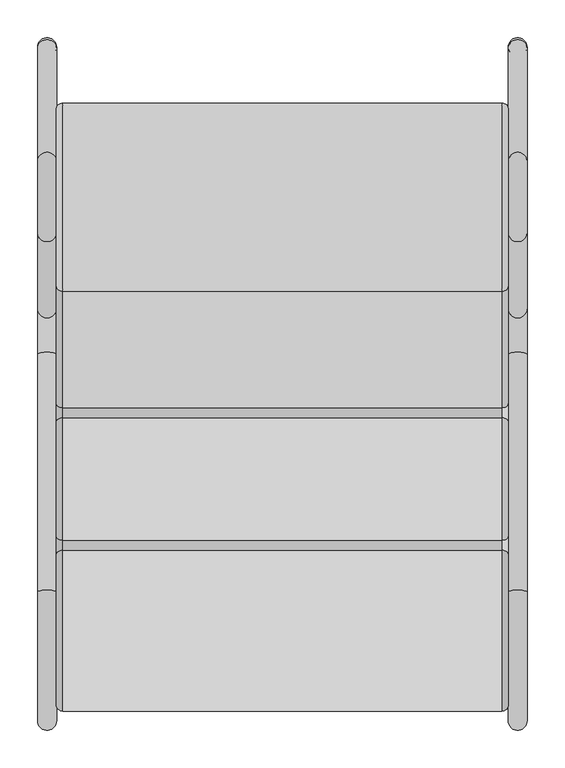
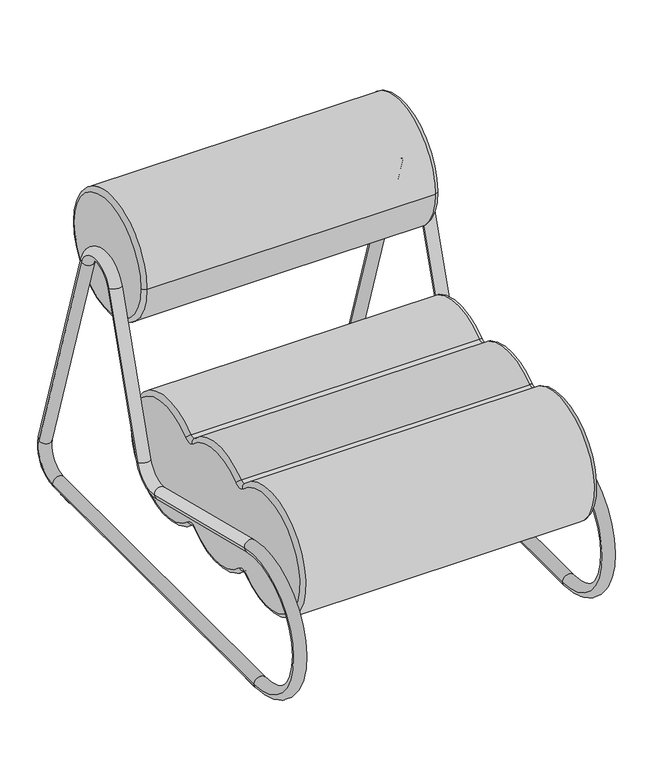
"""IFC4 building model written with IfcOpenShell, lengths in millimetres: furniture geometry, Norr11 - Fave Chair : Norr11 - Fave Chair."""

from ifc_helpers import new_model, si_unit, point, frame, frame_2d, origin, origin_with_axes, place, context, project, spatial, polyline, circle_curve, ellipse_curve, trimmed, segment, composite_curve, outline, extrude, source, transform, mapped, element, save
from ifc_brep_helpers import plane_surface, cylinder_surface, revolved_surface, advanced_brep


def furniture_424a3cbe(model_context):
    return source(origin(), model_context, "Body", "SolidModel", [
        advanced_brep(
        [(300.0, -99.0371066, 187.3023244), (300.0, -74.6397085, 186.1936304), (300.0, -66.5278768, 361.1205127), (300.0, -90.9152745, 362.2668383), (300.0, -242.5593695, 370.8688119), (300.0, -266.9214094, 372.4891571), (300.0, -278.6462906, 197.7786323), (300.0, -254.27705, 196.1200085), (-300.0, -74.6397085, 186.1936304), (-300.0, -99.0371066, 187.3023244), (-300.0, -254.27705, 196.1200085), (-300.0, -278.6462906, 197.7786323), (-300.0, -266.9214094, 372.4891571), (-300.0, -242.5593695, 370.8688119), (-300.0, -90.9152745, 362.2668383), (-300.0, -66.5278768, 361.1205127), (-291.5, -80.5343822, 180.0696756), (-291.5, -71.8305029, 367.7637165), (291.5, -71.8305029, 367.7637165), (291.5, -80.5343822, 180.0696756), (-291.5, -85.01288, 368.383352), (291.5, -85.01288, 368.383352), (-291.5, -247.7322118, 377.6135656), (291.5, -247.7322118, 377.6135656), (-291.5, -260.900882, 378.4894279), (291.5, -260.900882, 378.4894279), (-291.5, -273.4814999, 191.0277111), (291.5, -273.4814999, 191.0277111), (-291.5, -260.3089374, 190.1311577), (291.5, -260.3089374, 190.1311577), (-291.5, -93.7221649, 180.6689697), (291.5, -93.7221649, 180.6689697)],
        [
            (0, 1, circle_curve(frame((300.0, -87.4692924, 172.8650229), z_axis=(-1.0, 0.0, 0.0), x_axis=(0.0, 0.6934910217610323, 0.7204652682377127)), 18.5)),
            (1, 2, circle_curve(frame((300.0, 6.1250822, 270.099874), z_axis=(1.0, 0.0, 0.0), x_axis=(0.0, -0.6238383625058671, 0.7815533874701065)), 116.4611915)),
            (2, 3, circle_curve(frame((300.0, -78.0688865, 375.5792504), z_axis=(-1.0, 0.0, 0.0), x_axis=(0.0, -0.6943993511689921, -0.7195898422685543)), 18.5)),
            (3, 4, circle_curve(frame((300.0, -171.7319007, 278.5184546), z_axis=(1.0, 0.0, 0.0), x_axis=(0.0, -0.6085696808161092, 0.7935004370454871)), 116.383499)),
            (4, 5, circle_curve(frame((300.0, -253.8179086, 385.54857), z_axis=(-1.0, 0.0, 0.0), x_axis=(0.0, -0.7082973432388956, -0.7059142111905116)), 18.5)),
            (5, 6, circle_curve(frame((300.0, -349.4116978, 290.2764149), z_axis=(1.0, 0.0, 0.0), x_axis=(0.0, 0.6076224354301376, -0.7942260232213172)), 116.4627952)),
            (6, 7, circle_curve(frame((300.0, -267.4052756, 183.0854509), z_axis=(-1.0, 0.0, 0.0), x_axis=(0.0, 0.7096338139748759, 0.7045706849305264)), 18.5)),
            (7, 0, circle_curve(frame((300.0, -171.7526851, 278.0555746), z_axis=(1.0, 0.0, 0.0), x_axis=(0.0, 0.6252872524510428, -0.7803946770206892)), 116.2914777)),
            (8, 9, circle_curve(frame((-300.0, -87.4692924, 172.8650229), z_axis=(1.0, 0.0, 0.0), x_axis=(0.0, 0.6934910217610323, 0.7204652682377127)), 18.5)),
            (9, 10, circle_curve(frame((-300.0, -171.7526851, 278.0555746), z_axis=(-1.0, 0.0, 0.0), x_axis=(0.0, 0.6252872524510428, -0.7803946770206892)), 116.2914777)),
            (10, 11, circle_curve(frame((-300.0, -267.4052756, 183.0854509), z_axis=(1.0, 0.0, 0.0), x_axis=(0.0, 0.7096338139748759, 0.7045706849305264)), 18.5)),
            (11, 12, circle_curve(frame((-300.0, -349.4116978, 290.2764149), z_axis=(-1.0, 0.0, 0.0), x_axis=(0.0, 0.6076224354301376, -0.7942260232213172)), 116.4627952)),
            (12, 13, circle_curve(frame((-300.0, -253.8179086, 385.54857), z_axis=(1.0, 0.0, 0.0), x_axis=(0.0, -0.7082973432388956, -0.7059142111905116)), 18.5)),
            (13, 14, circle_curve(frame((-300.0, -171.7319007, 278.5184546), z_axis=(-1.0, 0.0, 0.0), x_axis=(0.0, -0.6085696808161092, 0.7935004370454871)), 116.383499)),
            (14, 15, circle_curve(frame((-300.0, -78.0688865, 375.5792504), z_axis=(1.0, 0.0, 0.0), x_axis=(0.0, -0.6943993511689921, -0.7195898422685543)), 18.5)),
            (15, 8, circle_curve(frame((-300.0, 6.1250822, 270.099874), z_axis=(-1.0, 0.0, 0.0), x_axis=(0.0, -0.6238383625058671, 0.7815533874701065)), 116.4611915)),
            (16, 17, circle_curve(frame((-291.5, 6.1250822, 270.099874), z_axis=(1.0, 0.0, 0.0), x_axis=(0.0, -1.0, 0.0)), 124.9611915)),
            (17, 18),
            (18, 19, circle_curve(frame((291.5, 6.1250822, 270.099874), z_axis=(-1.0, 0.0, 0.0), x_axis=(0.0, -1.0, 0.0)), 124.9611915)),
            (19, 16),
            (17, 20, circle_curve(frame((-291.5, -78.0688865, 375.5792504), z_axis=(-1.0, 0.0, 0.0), x_axis=(0.0, -1.0, 0.0)), 10.0)),
            (20, 21),
            (21, 18, circle_curve(frame((291.5, -78.0688865, 375.5792504), z_axis=(1.0, 0.0, 0.0), x_axis=(0.0, -1.0, 0.0)), 10.0)),
            (20, 22, circle_curve(frame((-291.5, -171.7319007, 278.5184546), z_axis=(1.0, 0.0, 0.0), x_axis=(0.0, -1.0, 0.0)), 124.883499)),
            (22, 23),
            (23, 21, circle_curve(frame((291.5, -171.7319007, 278.5184546), z_axis=(-1.0, 0.0, 0.0), x_axis=(0.0, -1.0, 0.0)), 124.883499)),
            (22, 24, circle_curve(frame((-291.5, -253.8179086, 385.54857), z_axis=(-1.0, 0.0, 0.0), x_axis=(0.0, -1.0, 0.0)), 10.0)),
            (24, 25),
            (25, 23, circle_curve(frame((291.5, -253.8179086, 385.54857), z_axis=(1.0, 0.0, 0.0), x_axis=(0.0, -1.0, 0.0)), 10.0)),
            (24, 26, circle_curve(frame((-291.5, -349.4116978, 290.2764149), z_axis=(1.0, 0.0, 0.0), x_axis=(0.0, -1.0, 0.0)), 124.9627952)),
            (26, 27),
            (27, 25, circle_curve(frame((291.5, -349.4116978, 290.2764149), z_axis=(-1.0, 0.0, 0.0), x_axis=(0.0, -1.0, 0.0)), 124.9627952)),
            (26, 28, circle_curve(frame((-291.5, -267.4052756, 183.0854509), z_axis=(-1.0, 0.0, 0.0), x_axis=(0.0, -1.0, 0.0)), 10.0)),
            (28, 29),
            (29, 27, circle_curve(frame((291.5, -267.4052756, 183.0854509), z_axis=(1.0, 0.0, 0.0), x_axis=(0.0, -1.0, 0.0)), 10.0)),
            (28, 30, circle_curve(frame((-291.5, -171.7526851, 278.0555746), z_axis=(1.0, 0.0, 0.0), x_axis=(0.0, -1.0, 0.0)), 124.7914777)),
            (30, 31),
            (31, 29, circle_curve(frame((291.5, -171.7526851, 278.0555746), z_axis=(-1.0, 0.0, 0.0), x_axis=(0.0, -1.0, 0.0)), 124.7914777)),
            (30, 16, circle_curve(frame((-291.5, -87.4692924, 172.8650229), z_axis=(-1.0, 0.0, 0.0), x_axis=(0.0, -1.0, 0.0)), 10.0)),
            (19, 31, circle_curve(frame((291.5, -87.4692924, 172.8650229), z_axis=(1.0, 0.0, 0.0), x_axis=(0.0, -1.0, 0.0)), 10.0)),
            (30, 9, circle_curve(frame((-291.5, -99.0371066, 187.3023244), z_axis=(0.0, 0.7803946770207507, 0.6252872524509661), x_axis=(1.0, 0.0, 0.0)), 8.5)),
            (8, 16, circle_curve(frame((-291.5, -74.6397085, 186.1936304), z_axis=(0.0, -0.7204652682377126, 0.6934910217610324), x_axis=(1.0, 0.0, 0.0)), 8.5)),
            (28, 10, circle_curve(frame((-291.5, -254.27705, 196.1200085), z_axis=(0.0, 0.7045706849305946, -0.7096338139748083), x_axis=(1.0, 0.0, 0.0)), 8.5)),
            (26, 11, circle_curve(frame((-291.5, -278.6462906, 197.7786323), z_axis=(0.0, 0.7942260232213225, 0.6076224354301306), x_axis=(1.0, 0.0, 0.0)), 8.5)),
            (24, 12, circle_curve(frame((-291.5, -266.9214094, 372.4891571), z_axis=(0.0, -0.7059142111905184, 0.7082973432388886), x_axis=(1.0, 0.0, 0.0)), 8.5)),
            (22, 13, circle_curve(frame((-291.5, -242.5593695, 370.8688119), z_axis=(0.0, -0.7935004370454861, -0.6085696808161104), x_axis=(1.0, 0.0, 0.0)), 8.5)),
            (20, 14, circle_curve(frame((-291.5, -90.9152745, 362.2668383), z_axis=(0.0, -0.7195898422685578, 0.6943993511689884), x_axis=(1.0, 0.0, 0.0)), 8.5)),
            (17, 15, circle_curve(frame((-291.5, -66.5278768, 361.1205127), z_axis=(0.0, -0.7815533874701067, -0.6238383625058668), x_axis=(1.0, 0.0, 0.0)), 8.5)),
            (0, 31, circle_curve(frame((291.5, -99.0371066, 187.3023244), z_axis=(0.0, 0.7803946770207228, 0.6252872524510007), x_axis=(-1.0, 0.0, 0.0)), 8.5)),
            (19, 1, circle_curve(frame((291.5, -74.6397085, 186.1936304), z_axis=(0.0, -0.7204652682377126, 0.6934910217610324), x_axis=(-1.0, 0.0, 0.0)), 8.5)),
            (7, 29, circle_curve(frame((291.5, -254.27705, 196.1200085), z_axis=(0.0, 0.7045706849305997, -0.7096338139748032), x_axis=(-1.0, 0.0, 0.0)), 8.5)),
            (6, 27, circle_curve(frame((291.5, -278.6462906, 197.7786323), z_axis=(0.0, 0.7942260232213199, 0.6076224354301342), x_axis=(-1.0, 0.0, 0.0)), 8.5)),
            (5, 25, circle_curve(frame((291.5, -266.9214094, 372.4891571), z_axis=(0.0, -0.7059142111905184, 0.7082973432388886), x_axis=(-1.0, 0.0, 0.0)), 8.5)),
            (4, 23, circle_curve(frame((291.5, -242.5593695, 370.8688119), z_axis=(0.0, -0.7935004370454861, -0.6085696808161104), x_axis=(-1.0, 0.0, 0.0)), 8.5)),
            (3, 21, circle_curve(frame((291.5, -90.9152745, 362.2668383), z_axis=(0.0, -0.7195898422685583, 0.694399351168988), x_axis=(-1.0, 0.0, 0.0)), 8.5)),
            (2, 18, circle_curve(frame((291.5, -66.5278768, 361.1205127), z_axis=(0.0, -0.7815533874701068, -0.6238383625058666), x_axis=(-1.0, 0.0, 0.0)), 8.5)),
        ],
        [
            plane_surface(frame((300.0, -118.8361093, 270.099874), z_axis=(1.0, 0.0, 0.0), x_axis=(0.0, 0.0, -1.0))),
            plane_surface(frame((-300.0, -118.8361093, 270.099874), z_axis=(-1.0, 0.0, 0.0), x_axis=(0.0, 0.0, 1.0))),
            cylinder_surface(frame((-300.0, 6.1250822, 270.099874), z_axis=(1.0, 0.0, 0.0), x_axis=(0.0, -1.0, 0.0)), 124.9611915),
            revolved_surface(polyline([(-291.5, -88.0688865, 375.5792504), (291.5, -88.0688865, 375.5792504)]), (-300.0, -78.0688865, 375.5792504), (-1.0, 0.0, 0.0)),
            cylinder_surface(frame((-300.0, -171.7319007, 278.5184546), z_axis=(1.0, 0.0, 0.0), x_axis=(0.0, -1.0, 0.0)), 124.883499),
            revolved_surface(polyline([(-291.5, -263.8179086, 385.54857), (291.5, -263.8179086, 385.54857)]), (-300.0, -253.8179086, 385.54857), (-1.0, 0.0, 0.0)),
            cylinder_surface(frame((-300.0, -349.4116978, 290.2764149), z_axis=(1.0, 0.0, 0.0), x_axis=(0.0, -1.0, 0.0)), 124.9627952),
            revolved_surface(polyline([(-291.5, -277.4052756, 183.0854509), (291.5, -277.4052756, 183.0854509)]), (-300.0, -267.4052756, 183.0854509), (-1.0, 0.0, 0.0)),
            cylinder_surface(frame((-300.0, -171.7526851, 278.0555746), z_axis=(1.0, 0.0, 0.0), x_axis=(0.0, -1.0, 0.0)), 124.7914777),
            revolved_surface(polyline([(-291.5, -97.4692924, 172.8650229), (291.5, -97.4692924, 172.8650229)]), (-300.0, -87.4692924, 172.8650229), (-1.0, 0.0, 0.0)),
            revolved_surface(trimmed(ellipse_curve(frame((-291.5, -74.6397085, 186.1936304), z_axis=(0.0, 0.7204652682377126, -0.6934910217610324), x_axis=(1.0, 0.0, 0.0)), 8.5, 8.5), [point((-291.5, -80.5343822, 180.0696756))], [point((-300.0, -74.6397085, 186.1936304))], True, "CARTESIAN"), (0.0, -87.4692924, 172.8650229), (1.0, 0.0, 0.0)),
            revolved_surface(trimmed(ellipse_curve(frame((-291.5, -99.0371066, 187.3023244), z_axis=(0.0, 0.7803946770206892, 0.6252872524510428), x_axis=(1.0, 0.0, 0.0)), 8.5, 8.5), [point((-291.5, -93.7221649, 180.6689697))], [point((-300.0, -99.0371066, 187.3023244))], True, "CARTESIAN"), (0.0, -171.7526851, 278.0555746), (-1.0, 0.0, 0.0)),
            revolved_surface(trimmed(ellipse_curve(frame((-291.5, -254.27705, 196.1200085), z_axis=(0.0, 0.7045706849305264, -0.7096338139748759), x_axis=(1.0, 0.0, 0.0)), 8.5, 8.5), [point((-291.5, -260.3089374, 190.1311577))], [point((-300.0, -254.27705, 196.1200085))], True, "CARTESIAN"), (0.0, -267.4052756, 183.0854509), (1.0, 0.0, 0.0)),
            revolved_surface(trimmed(ellipse_curve(frame((-291.5, -278.6462906, 197.7786323), z_axis=(0.0, 0.7942260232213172, 0.6076224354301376), x_axis=(1.0, 0.0, 0.0)), 8.5, 8.5), [point((-291.5, -273.4814999, 191.0277111))], [point((-300.0, -278.6462906, 197.7786323))], True, "CARTESIAN"), (0.0, -349.4116978, 290.2764149), (-1.0, 0.0, 0.0)),
            revolved_surface(trimmed(ellipse_curve(frame((-291.5, -266.9214094, 372.4891571), z_axis=(0.0, -0.7059142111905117, 0.7082973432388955), x_axis=(1.0, 0.0, 0.0)), 8.5, 8.5), [point((-291.5, -260.900882, 378.4894279))], [point((-300.0, -266.9214094, 372.4891571))], True, "CARTESIAN"), (0.0, -253.8179086, 385.54857), (1.0, 0.0, 0.0)),
            revolved_surface(trimmed(ellipse_curve(frame((-291.5, -242.5593695, 370.8688119), z_axis=(0.0, -0.793500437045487, -0.6085696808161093), x_axis=(1.0, 0.0, 0.0)), 8.5, 8.5), [point((-291.5, -247.7322118, 377.6135656))], [point((-300.0, -242.5593695, 370.8688119))], True, "CARTESIAN"), (0.0, -171.7319007, 278.5184546), (-1.0, 0.0, 0.0)),
            revolved_surface(trimmed(ellipse_curve(frame((-291.5, -90.9152745, 362.2668383), z_axis=(0.0, -0.7195898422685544, 0.694399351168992), x_axis=(1.0, 0.0, 0.0)), 8.5, 8.5), [point((-291.5, -85.01288, 368.383352))], [point((-300.0, -90.9152745, 362.2668383))], True, "CARTESIAN"), (0.0, -78.0688865, 375.5792504), (1.0, 0.0, 0.0)),
            revolved_surface(trimmed(ellipse_curve(frame((-291.5, -66.5278768, 361.1205127), z_axis=(0.0, -0.7815533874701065, -0.6238383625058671), x_axis=(1.0, 0.0, 0.0)), 8.5, 8.5), [point((-291.5, -71.8305029, 367.7637165))], [point((-300.0, -66.5278768, 361.1205127))], True, "CARTESIAN"), (0.0, 6.1250822, 270.099874), (-1.0, 0.0, 0.0)),
            revolved_surface(trimmed(ellipse_curve(frame((291.5, -74.6397085, 186.1936304), z_axis=(0.0, 0.7204652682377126, -0.6934910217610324), x_axis=(-1.0, 0.0, 0.0)), 8.5, 8.5), [point((300.0, -74.6397085, 186.1936304))], [point((291.5, -80.5343822, 180.0696756))], True, "CARTESIAN"), (0.0, -87.4692924, 172.8650229), (1.0, 0.0, 0.0)),
            revolved_surface(trimmed(ellipse_curve(frame((291.5, -99.0371066, 187.3023244), z_axis=(0.0, 0.7803946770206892, 0.6252872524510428), x_axis=(-1.0, 0.0, 0.0)), 8.5, 8.5), [point((300.0, -99.0371066, 187.3023244))], [point((291.5, -93.7221649, 180.6689697))], True, "CARTESIAN"), (0.0, -171.7526851, 278.0555746), (-1.0, 0.0, 0.0)),
            revolved_surface(trimmed(ellipse_curve(frame((291.5, -254.27705, 196.1200085), z_axis=(0.0, 0.7045706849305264, -0.7096338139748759), x_axis=(-1.0, 0.0, 0.0)), 8.5, 8.5), [point((300.0, -254.27705, 196.1200085))], [point((291.5, -260.3089374, 190.1311577))], True, "CARTESIAN"), (0.0, -267.4052756, 183.0854509), (1.0, 0.0, 0.0)),
            revolved_surface(trimmed(ellipse_curve(frame((291.5, -278.6462906, 197.7786323), z_axis=(0.0, 0.7942260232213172, 0.6076224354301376), x_axis=(-1.0, 0.0, 0.0)), 8.5, 8.5), [point((300.0, -278.6462906, 197.7786323))], [point((291.5, -273.4814999, 191.0277111))], True, "CARTESIAN"), (0.0, -349.4116978, 290.2764149), (-1.0, 0.0, 0.0)),
            revolved_surface(trimmed(ellipse_curve(frame((291.5, -266.9214094, 372.4891571), z_axis=(0.0, -0.7059142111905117, 0.7082973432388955), x_axis=(-1.0, 0.0, 0.0)), 8.5, 8.5), [point((300.0, -266.9214094, 372.4891571))], [point((291.5, -260.900882, 378.4894279))], True, "CARTESIAN"), (0.0, -253.8179086, 385.54857), (1.0, 0.0, 0.0)),
            revolved_surface(trimmed(ellipse_curve(frame((291.5, -242.5593695, 370.8688119), z_axis=(0.0, -0.793500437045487, -0.6085696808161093), x_axis=(-1.0, 0.0, 0.0)), 8.5, 8.5), [point((300.0, -242.5593695, 370.8688119))], [point((291.5, -247.7322118, 377.6135656))], True, "CARTESIAN"), (0.0, -171.7319007, 278.5184546), (-1.0, 0.0, 0.0)),
            revolved_surface(trimmed(ellipse_curve(frame((291.5, -90.9152745, 362.2668383), z_axis=(0.0, -0.7195898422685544, 0.694399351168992), x_axis=(-1.0, 0.0, 0.0)), 8.5, 8.5), [point((300.0, -90.9152745, 362.2668383))], [point((291.5, -85.01288, 368.383352))], True, "CARTESIAN"), (0.0, -78.0688865, 375.5792504), (1.0, 0.0, 0.0)),
            revolved_surface(trimmed(ellipse_curve(frame((291.5, -66.5278768, 361.1205127), z_axis=(0.0, -0.7815533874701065, -0.6238383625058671), x_axis=(-1.0, 0.0, 0.0)), 8.5, 8.5), [point((300.0, -66.5278768, 361.1205127))], [point((291.5, -71.8305029, 367.7637165))], True, "CARTESIAN"), (0.0, 6.1250822, 270.099874), (-1.0, 0.0, 0.0)),
        ],
        [
            (0, [[1, 2, 3, 4, 5, 6, 7, 8]]),
            (1, [[9, 10, 11, 12, 13, 14, 15, 16]]),
            (2, [[17, 18, 19, 20]]),
            (3, [[21, 22, 23, -18]]),
            (4, [[24, 25, 26, -22]]),
            (5, [[27, 28, 29, -25]]),
            (6, [[30, 31, 32, -28]]),
            (7, [[33, 34, 35, -31]]),
            (8, [[36, 37, 38, -34]]),
            (9, [[39, -20, 40, -37]]),
            (10, [[41, -9, 42, -39]]),
            (11, [[-41, -36, 43, -10]]),
            (12, [[-43, -33, 44, -11]]),
            (13, [[-44, -30, 45, -12]]),
            (14, [[-45, -27, 46, -13]]),
            (15, [[-46, -24, 47, -14]]),
            (16, [[-47, -21, 48, -15]]),
            (17, [[-42, -16, -48, -17]]),
            (18, [[49, -40, 50, -1]]),
            (19, [[-49, -8, 51, -38]]),
            (20, [[-51, -7, 52, -35]]),
            (21, [[-52, -6, 53, -32]]),
            (22, [[-53, -5, 54, -29]]),
            (23, [[-54, -4, 55, -26]]),
            (24, [[-55, -3, 56, -23]]),
            (25, [[-50, -19, -56, -2]]),
        ],
    ),
        advanced_brep(
        [(300.0, 91.3471665, 584.8030049), (300.0, 324.3081823, 584.8030049), (-300.0, 324.3081823, 584.8030049), (-300.0, 91.3471665, 584.8030049), (-291.4805079, 332.8276744, 584.8030049), (-291.4805079, 82.8276744, 584.8030049), (291.4805111, 82.8276744, 584.8030049), (291.4805079, 332.8276744, 584.8030049)],
        [
            (0, 1, circle_curve(frame((300.0, 207.8276744, 584.8030049), z_axis=(1.0, 0.0, 0.0), x_axis=(0.0, -1.0, 0.0)), 116.4805079)),
            (1, 0, circle_curve(frame((300.0, 207.8276744, 584.8030049), z_axis=(1.0, 0.0, 0.0), x_axis=(0.0, 1.0, 0.0)), 116.4805079)),
            (2, 3, circle_curve(frame((-300.0, 207.8276744, 584.8030049), z_axis=(-1.0, 0.0, 0.0), x_axis=(0.0, -1.0, 0.0)), 116.4805079)),
            (3, 2, circle_curve(frame((-300.0, 207.8276744, 584.8030049), z_axis=(-1.0, 0.0, 0.0), x_axis=(0.0, 1.0, 0.0)), 116.4805079)),
            (4, 5, circle_curve(frame((-291.4805079, 207.8276744, 584.8030049), z_axis=(1.0, 0.0, 0.0), x_axis=(0.0, -1.0, 0.0)), 125.0)),
            (5, 6),
            (6, 7, circle_curve(frame((291.4805079, 207.8276744, 584.8030049), z_axis=(-1.0, 0.0, 0.0), x_axis=(0.0, -1.0, 0.0)), 125.0)),
            (7, 4),
            (5, 4, circle_curve(frame((-291.4805079, 207.8276744, 584.8030049), z_axis=(1.0, 0.0, 0.0), x_axis=(0.0, -1.0, 0.0)), 125.0)),
            (7, 6, circle_curve(frame((291.4805079, 207.8276744, 584.8030049), z_axis=(-1.0, 0.0, 0.0), x_axis=(0.0, -1.0, 0.0)), 125.0)),
            (2, 4, circle_curve(frame((-291.4805079, 324.3081823, 584.8030049), z_axis=(0.0, 0.0, -1.0), x_axis=(1.0, 0.0, 0.0)), 8.5194921)),
            (5, 3, circle_curve(frame((-291.4805079, 91.3471665, 584.8030049), z_axis=(0.0, 0.0, -1.0), x_axis=(1.0, 0.0, 0.0)), 8.5194921)),
            (7, 1, circle_curve(frame((291.4805079, 324.3081823, 584.8030049), z_axis=(0.0, 0.0, -1.0), x_axis=(-1.0, 0.0, 0.0)), 8.5194921)),
            (0, 6, circle_curve(frame((291.4805079, 91.3471665, 584.8030049), z_axis=(0.0, 0.0, -1.0), x_axis=(-1.0, 0.0, 0.0)), 8.5194921)),
        ],
        [
            plane_surface(frame((300.0, 82.8276744, 584.8030049), z_axis=(1.0, 0.0, 0.0), x_axis=(0.0, 0.0, -1.0))),
            plane_surface(frame((-300.0, 82.8276744, 584.8030049), z_axis=(-1.0, 0.0, 0.0), x_axis=(0.0, 0.0, 1.0))),
            cylinder_surface(frame((-300.0, 207.8276744, 584.8030049), z_axis=(1.0, 0.0, 0.0), x_axis=(0.0, -1.0, 0.0)), 125.0),
            revolved_surface(trimmed(ellipse_curve(frame((-291.4805079, 91.3471665, 584.8030049), z_axis=(0.0, 0.0, 1.0), x_axis=(1.0, 0.0, 0.0)), 8.5194921, 8.5194921), [point((-300.0, 91.3471665, 584.8030049))], [point((-291.4805079, 82.8276744, 584.8030049))], True, "CARTESIAN"), (0.0, 207.8276744, 584.8030049), (1.0, 0.0, 0.0)),
            revolved_surface(trimmed(ellipse_curve(frame((-291.4805079, 324.3081823, 584.8030049), z_axis=(0.0, 0.0, -1.0), x_axis=(1.0, 0.0, 0.0)), 8.5194921, 8.5194921), [point((-300.0, 324.3081823, 584.8030049))], [point((-291.4805079, 332.8276744, 584.8030049))], True, "CARTESIAN"), (0.0, 207.8276744, 584.8030049), (1.0, 0.0, 0.0)),
            revolved_surface(trimmed(ellipse_curve(frame((291.4805079, 91.3471665, 584.8030049), z_axis=(0.0, 0.0, 1.0), x_axis=(-1.0, 0.0, 0.0)), 8.5194921, 8.5194921), [point((291.4805079, 82.8276744, 584.8030049))], [point((300.0, 91.3471665, 584.8030049))], True, "CARTESIAN"), (0.0, 207.8276744, 584.8030049), (1.0, 0.0, 0.0)),
            revolved_surface(trimmed(ellipse_curve(frame((291.4805079, 324.3081823, 584.8030049), z_axis=(0.0, 0.0, -1.0), x_axis=(-1.0, 0.0, 0.0)), 8.5194921, 8.5194921), [point((291.4805079, 332.8276744, 584.8030049))], [point((300.0, 324.3081823, 584.8030049))], True, "CARTESIAN"), (0.0, 207.8276744, 584.8030049), (1.0, 0.0, 0.0)),
        ],
        [
            (0, [[1, 2]]),
            (1, [[3, 4]]),
            (2, [[5, 6, 7, 8]]),
            (2, [[9, -8, 10, -6]]),
            (3, [[11, -9, 12, -3]]),
            (4, [[-11, -4, -12, -5]]),
            (5, [[13, -1, 14, -10]]),
            (6, [[-13, -7, -14, -2]]),
        ],
    ),
        extrude(outline(composite_curve([segment(trimmed(circle_curve(frame_2d((312.9136531, 310.7190841)), 6.0000092), [point((318.9136623, 310.7190841))], [point((306.9136438, 310.7190841))], False, "CARTESIAN"), True, "CONTINUOUS"), segment(polyline([(306.9136438, 310.7190841), (306.9136438, 337.731551)]), True, "CONTINUOUS"), segment(trimmed(circle_curve(frame_2d((312.9136531, 337.731551)), 6.0000092), [point((306.9136438, 337.731551))], [point((318.9136623, 337.731551))], False, "CARTESIAN"), True, "CONTINUOUS"), segment(polyline([(318.9136623, 337.731551), (318.9136623, 310.7190841)]), True, "CONTINUOUS")], self_intersect=False)), origin_with_axes(), (0.0, 0.0, 1.0), 3.9643757),
        extrude(outline(composite_curve([segment(trimmed(circle_curve(frame_2d((312.9136531, -337.7499273)), 6.0000092), [point((318.9136623, -337.7499273))], [point((306.9136438, -337.7499273))], False, "CARTESIAN"), True, "CONTINUOUS"), segment(polyline([(306.9136438, -337.7499273), (306.9136438, -310.7374605)]), True, "CONTINUOUS"), segment(trimmed(circle_curve(frame_2d((312.9136531, -310.7374605)), 6.0000092), [point((306.9136438, -310.7374605))], [point((318.9136623, -310.7374605))], False, "CARTESIAN"), True, "CONTINUOUS"), segment(polyline([(318.9136623, -310.7374605), (318.9136623, -337.7499273)]), True, "CONTINUOUS")], self_intersect=False)), origin_with_axes(), (0.0, 0.0, 1.0), 3.9643757),
        extrude(outline(composite_curve([segment(polyline([(-318.9136623, 310.7190841), (-318.9136623, 337.731551)]), True, "CONTINUOUS"), segment(trimmed(circle_curve(frame_2d((-312.9136531, 337.731551)), 6.0000092), [point((-318.9136623, 337.731551))], [point((-306.9136438, 337.731551))], False, "CARTESIAN"), True, "CONTINUOUS"), segment(polyline([(-306.9136438, 337.731551), (-306.9136438, 310.7190841)]), True, "CONTINUOUS"), segment(trimmed(circle_curve(frame_2d((-312.9136531, 310.7190841)), 6.0000092), [point((-306.9136438, 310.7190841))], [point((-318.9136623, 310.7190841))], False, "CARTESIAN"), True, "CONTINUOUS")], self_intersect=False)), origin_with_axes(), (0.0, 0.0, 1.0), 3.9643757),
        extrude(outline(composite_curve([segment(polyline([(-318.9136623, -337.7499273), (-318.9136623, -310.7374605)]), True, "CONTINUOUS"), segment(trimmed(circle_curve(frame_2d((-312.9136531, -310.7374605)), 6.0000092), [point((-318.9136623, -310.7374605))], [point((-306.9136438, -310.7374605))], False, "CARTESIAN"), True, "CONTINUOUS"), segment(polyline([(-306.9136438, -310.7374605), (-306.9136438, -337.7499273)]), True, "CONTINUOUS"), segment(trimmed(circle_curve(frame_2d((-312.9136531, -337.7499273)), 6.0000092), [point((-306.9136438, -337.7499273))], [point((-318.9136623, -337.7499273))], False, "CARTESIAN"), True, "CONTINUOUS")], self_intersect=False)), origin_with_axes(), (0.0, 0.0, 1.0), 3.9643757),
        advanced_brep(
        [(324.7897199, -316.59218, 284.7942569), (324.7897199, -349.7757849, 13.8640186), (299.7897199, -349.7757849, 13.8640186), (299.7897199, -316.59218, 284.7942569), (299.7897199, -0.9459559, 206.2958087), (324.7897199, -0.9459559, 206.2958087), (324.7897199, 59.2781389, 239.7143765), (299.7897199, 59.2781389, 239.7143765), (299.7897199, 160.2647078, 550.847029), (324.7897199, 160.2647078, 550.847029), (324.7897199, 255.4805117, 550.5173581), (299.7897199, 255.4805117, 550.5173581), (299.7897199, 405.1400834, 78.3158499), (324.7897199, 405.1400834, 78.3158499), (324.7897199, 357.9559433, 13.8640186), (299.7897199, 357.9559433, 13.8640186)],
        [
            (0, 1, circle_curve(frame((324.7897199, -349.7757849, 151.361306), z_axis=(1.0, 0.0, 0.0), x_axis=(0.0, 0.0, -1.0)), 137.4972874)),
            (1, 2, circle_curve(frame((312.2897199, -349.7757849, 13.8640186), z_axis=(0.0, -1.0, 0.0), x_axis=(-1.0, 0.0, 0.0)), 12.5)),
            (2, 3, circle_curve(frame((299.7897199, -349.7757849, 151.361306), z_axis=(-1.0, 0.0, 0.0), x_axis=(0.0, 0.0, -1.0)), 137.4972874)),
            (3, 0, circle_curve(frame((312.2897199, -316.59218, 284.7942569), z_axis=(0.0, -0.9704406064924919, 0.24134006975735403), x_axis=(-1.0, 0.0, 0.0)), 12.5)),
            (2, 1, circle_curve(frame((312.2897199, -349.7757849, 13.8640186), z_axis=(0.0, -1.0, 0.0), x_axis=(-1.0, 0.0, 0.0)), 12.5)),
            (0, 3, circle_curve(frame((312.2897199, -316.59218, 284.7942569), z_axis=(0.0, -0.9704406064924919, 0.24134006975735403), x_axis=(-1.0, 0.0, 0.0)), 12.5)),
            (3, 4),
            (4, 5, circle_curve(frame((312.2897199, -0.9459559, 206.2958087), z_axis=(0.0, -0.9704406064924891, 0.24134006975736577), x_axis=(-1.0, 0.0, 0.0)), 12.5)),
            (5, 0),
            (5, 4, circle_curve(frame((312.2897199, -0.9459559, 206.2958087), z_axis=(0.0, -0.9704406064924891, 0.24134006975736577), x_axis=(-1.0, 0.0, 0.0)), 12.5)),
            (6, 5, circle_curve(frame((324.7897199, 11.2423723, 255.3056917), z_axis=(-1.0, 0.0, 0.0), x_axis=(0.0, -0.24134006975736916, -0.9704406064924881)), 50.5027126)),
            (4, 7, circle_curve(frame((299.7897199, 11.2423723, 255.3056917), z_axis=(1.0, 0.0, 0.0), x_axis=(0.0, -0.24134006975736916, -0.9704406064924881)), 50.5027126)),
            (7, 6, circle_curve(frame((312.2897199, 59.2781389, 239.7143765), z_axis=(0.0, -0.3087223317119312, -0.9511522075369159), x_axis=(-1.0, 0.0, 0.0)), 12.5)),
            (6, 7, circle_curve(frame((312.2897199, 59.2781389, 239.7143765), z_axis=(0.0, -0.3087223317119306, -0.951152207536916), x_axis=(-1.0, 0.0, 0.0)), 12.5)),
            (7, 8),
            (8, 9, circle_curve(frame((312.2897199, 160.2647078, 550.847029), z_axis=(0.0, -0.30872233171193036, -0.9511522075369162), x_axis=(-1.0, 0.0, 0.0)), 12.5)),
            (9, 6),
            (9, 8, circle_curve(frame((312.2897199, 160.2647078, 550.847029), z_axis=(0.0, -0.30872233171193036, -0.9511522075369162), x_axis=(-1.0, 0.0, 0.0)), 12.5)),
            (10, 9, circle_curve(frame((324.7897199, 207.819738, 535.4117499), z_axis=(1.0, 0.0, 0.0), x_axis=(0.0, -0.9511522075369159, 0.30872233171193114)), 49.9972874)),
            (8, 11, circle_curve(frame((299.7897199, 207.819738, 535.4117499), z_axis=(-1.0, 0.0, 0.0), x_axis=(0.0, -0.9511522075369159, 0.30872233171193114)), 49.9972874)),
            (11, 10, circle_curve(frame((312.2897199, 255.4805117, 550.5173581), z_axis=(0.0, -0.3021285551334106, 0.9532671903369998), x_axis=(-1.0, 0.0, 0.0)), 12.5)),
            (10, 11, circle_curve(frame((312.2897199, 255.4805117, 550.5173581), z_axis=(0.0, -0.3021285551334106, 0.9532671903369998), x_axis=(-1.0, 0.0, 0.0)), 12.5)),
            (11, 12),
            (12, 13, circle_curve(frame((312.2897199, 405.1400834, 78.3158499), z_axis=(0.0, -0.3021285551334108, 0.9532671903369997), x_axis=(-1.0, 0.0, 0.0)), 12.5)),
            (13, 10),
            (13, 12, circle_curve(frame((312.2897199, 405.1400834, 78.3158499), z_axis=(0.0, -0.3021285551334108, 0.9532671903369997), x_axis=(-1.0, 0.0, 0.0)), 12.5)),
            (14, 13, circle_curve(frame((324.7897199, 357.9559433, 63.361306), z_axis=(1.0, 0.0, 0.0), x_axis=(0.0, 0.9532671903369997, 0.3021285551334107)), 49.4972874)),
            (12, 15, circle_curve(frame((299.7897199, 357.9559433, 63.361306), z_axis=(-1.0, 0.0, 0.0), x_axis=(0.0, 0.9532671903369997, 0.3021285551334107)), 49.4972874)),
            (15, 14, circle_curve(frame((312.2897199, 357.9559433, 13.8640186), z_axis=(0.0, 1.0, 0.0), x_axis=(-1.0, 0.0, 0.0)), 12.5)),
            (14, 15, circle_curve(frame((312.2897199, 357.9559433, 13.8640186), z_axis=(0.0, 0.9999999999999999, 0.0), x_axis=(-1.0, 0.0, 0.0)), 12.5)),
            (15, 2),
            (1, 14),
        ],
        [
            revolved_surface(trimmed(ellipse_curve(frame((312.2897199, -349.7757849, 13.8640186), z_axis=(0.0, 1.0, 0.0), x_axis=(-1.0, 0.0, 0.0)), 12.5, 12.5), [point((299.7897199, -349.7757849, 13.8640186))], [point((324.7897199, -349.7757849, 13.8640186))], True, "CARTESIAN"), (0.0, -349.7757849, 151.361306), (-1.0, 0.0, 0.0)),
            revolved_surface(trimmed(ellipse_curve(frame((312.2897199, -349.7757849, 13.8640186), z_axis=(0.0, 1.0, 0.0), x_axis=(-1.0, 0.0, 0.0)), 12.5, 12.5), [point((324.7897199, -349.7757849, 13.8640186))], [point((299.7897199, -349.7757849, 13.8640186))], True, "CARTESIAN"), (0.0, -349.7757849, 151.361306), (-1.0, 0.0, 0.0)),
            cylinder_surface(frame((312.2897199, -316.59218, 284.7942569), z_axis=(0.0, -0.9704406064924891, 0.24134006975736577), x_axis=(-1.0, 0.0, 0.0)), 12.5),
            revolved_surface(trimmed(ellipse_curve(frame((312.2897199, -0.9459559, 206.2958087), z_axis=(0.0, -0.9704406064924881, 0.241340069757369), x_axis=(-1.0, 0.0, 0.0)), 12.5, 12.5), [point((299.7897199, -0.9459559, 206.2958087))], [point((324.7897199, -0.9459559, 206.2958087))], True, "CARTESIAN"), (0.0, 11.2423723, 255.3056917), (1.0, 0.0, 0.0)),
            revolved_surface(trimmed(ellipse_curve(frame((312.2897199, -0.9459559, 206.2958087), z_axis=(0.0, -0.9704406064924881, 0.241340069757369), x_axis=(-1.0, 0.0, 0.0)), 12.5, 12.5), [point((324.7897199, -0.9459559, 206.2958087))], [point((299.7897199, -0.9459559, 206.2958087))], True, "CARTESIAN"), (0.0, 11.2423723, 255.3056917), (1.0, 0.0, 0.0)),
            cylinder_surface(frame((312.2897199, 59.2781389, 239.7143765), z_axis=(0.0, -0.30872233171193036, -0.9511522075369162), x_axis=(-1.0, 0.0, 0.0)), 12.5),
            revolved_surface(trimmed(ellipse_curve(frame((312.2897199, 160.2647078, 550.847029), z_axis=(0.0, -0.3087223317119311, -0.9511522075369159), x_axis=(-1.0, 0.0, 0.0)), 12.5, 12.5), [point((299.7897199, 160.2647078, 550.847029))], [point((324.7897199, 160.2647078, 550.847029))], True, "CARTESIAN"), (0.0, 207.819738, 535.4117499), (-1.0, 0.0, 0.0)),
            revolved_surface(trimmed(ellipse_curve(frame((312.2897199, 160.2647078, 550.847029), z_axis=(0.0, -0.3087223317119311, -0.9511522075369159), x_axis=(-1.0, 0.0, 0.0)), 12.5, 12.5), [point((324.7897199, 160.2647078, 550.847029))], [point((299.7897199, 160.2647078, 550.847029))], True, "CARTESIAN"), (0.0, 207.819738, 535.4117499), (-1.0, 0.0, 0.0)),
            cylinder_surface(frame((312.2897199, 255.4805117, 550.5173581), z_axis=(0.0, -0.3021285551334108, 0.9532671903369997), x_axis=(-1.0, 0.0, 0.0)), 12.5),
            revolved_surface(trimmed(ellipse_curve(frame((312.2897199, 405.1400834, 78.3158499), z_axis=(0.0, -0.30212855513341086, 0.9532671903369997), x_axis=(-1.0, 0.0, 0.0)), 12.5, 12.5), [point((299.7897199, 405.1400834, 78.3158499))], [point((324.7897199, 405.1400834, 78.3158499))], True, "CARTESIAN"), (0.0, 357.9559433, 63.361306), (-1.0, 0.0, 0.0)),
            revolved_surface(trimmed(ellipse_curve(frame((312.2897199, 405.1400834, 78.3158499), z_axis=(0.0, -0.30212855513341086, 0.9532671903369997), x_axis=(-1.0, 0.0, 0.0)), 12.5, 12.5), [point((324.7897199, 405.1400834, 78.3158499))], [point((299.7897199, 405.1400834, 78.3158499))], True, "CARTESIAN"), (0.0, 357.9559433, 63.361306), (-1.0, 0.0, 0.0)),
            cylinder_surface(frame((312.2897199, 357.9559433, 13.8640186), z_axis=(0.0, 1.0, 0.0), x_axis=(-1.0, 0.0, 0.0)), 12.5),
        ],
        [
            (0, [[1, 2, 3, 4]]),
            (1, [[-3, 5, -1, 6]]),
            (2, [[-4, 7, 8, 9]]),
            (2, [[-6, -9, 10, -7]]),
            (3, [[11, -8, 12, 13]]),
            (4, [[-12, -10, -11, 14]]),
            (5, [[-13, 15, 16, 17]]),
            (5, [[-14, -17, 18, -15]]),
            (6, [[19, -16, 20, 21]]),
            (7, [[-20, -18, -19, 22]]),
            (8, [[-21, 23, 24, 25]]),
            (8, [[-22, -25, 26, -23]]),
            (9, [[27, -24, 28, 29]]),
            (10, [[-28, -26, -27, 30]]),
            (11, [[-29, 31, -2, 32]]),
            (11, [[-30, -32, -5, -31]]),
        ],
    ),
        advanced_brep(
        [(-299.7897199, -316.59218, 284.7942569), (-299.7897199, -349.7757849, 13.8640186), (-324.7897199, -349.7757849, 13.8640186), (-324.7897199, -316.59218, 284.7942569), (-324.7897199, -0.9459559, 206.2958087), (-299.7897199, -0.9459559, 206.2958087), (-299.7897199, 59.2781389, 239.7143765), (-324.7897199, 59.2781389, 239.7143765), (-324.7897199, 160.2647078, 550.847029), (-299.7897199, 160.2647078, 550.847029), (-299.7897199, 255.4805117, 550.5173581), (-324.7897199, 255.4805117, 550.5173581), (-324.7897199, 405.1400834, 78.3158499), (-299.7897199, 405.1400834, 78.3158499), (-299.7897199, 357.9559433, 13.8640186), (-324.7897199, 357.9559433, 13.8640186)],
        [
            (0, 1, circle_curve(frame((-299.7897199, -349.7757849, 151.361306), z_axis=(1.0, 0.0, 0.0), x_axis=(0.0, 0.0, -1.0)), 137.4972874)),
            (1, 2, circle_curve(frame((-312.2897199, -349.7757849, 13.8640186), z_axis=(0.0, -1.0, 0.0), x_axis=(1.0, 0.0, 0.0)), 12.5)),
            (2, 3, circle_curve(frame((-324.7897199, -349.7757849, 151.361306), z_axis=(-1.0, 0.0, 0.0), x_axis=(0.0, 0.0, -1.0)), 137.4972874)),
            (3, 0, circle_curve(frame((-312.2897199, -316.59218, 284.7942569), z_axis=(0.0, -0.9704406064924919, 0.24134006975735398), x_axis=(1.0, 0.0, 0.0)), 12.5)),
            (2, 1, circle_curve(frame((-312.2897199, -349.7757849, 13.8640186), z_axis=(0.0, -1.0, 0.0), x_axis=(1.0, 0.0, 0.0)), 12.5)),
            (0, 3, circle_curve(frame((-312.2897199, -316.59218, 284.7942569), z_axis=(0.0, -0.9704406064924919, 0.24134006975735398), x_axis=(1.0, 0.0, 0.0)), 12.5)),
            (3, 4),
            (4, 5, circle_curve(frame((-312.2897199, -0.9459559, 206.2958087), z_axis=(0.0, -0.9704406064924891, 0.24134006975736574), x_axis=(1.0, 0.0, 0.0)), 12.5)),
            (5, 0),
            (5, 4, circle_curve(frame((-312.2897199, -0.9459559, 206.2958087), z_axis=(0.0, -0.9704406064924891, 0.24134006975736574), x_axis=(1.0, 0.0, 0.0)), 12.5)),
            (6, 5, circle_curve(frame((-299.7897199, 11.2423723, 255.3056917), z_axis=(-1.0, 0.0, 0.0), x_axis=(0.0, -0.24134006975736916, -0.9704406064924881)), 50.5027126)),
            (4, 7, circle_curve(frame((-324.7897199, 11.2423723, 255.3056917), z_axis=(1.0, 0.0, 0.0), x_axis=(0.0, -0.24134006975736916, -0.9704406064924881)), 50.5027126)),
            (7, 6, circle_curve(frame((-312.2897199, 59.2781389, 239.7143765), z_axis=(0.0, -0.3087223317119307, -0.951152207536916), x_axis=(1.0, 0.0, 0.0)), 12.5)),
            (6, 7, circle_curve(frame((-312.2897199, 59.2781389, 239.7143765), z_axis=(0.0, -0.3087223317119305, -0.9511522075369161), x_axis=(1.0, 0.0, 0.0)), 12.5)),
            (7, 8),
            (8, 9, circle_curve(frame((-312.2897199, 160.2647078, 550.847029), z_axis=(0.0, -0.3087223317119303, -0.9511522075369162), x_axis=(1.0, 0.0, 0.0)), 12.5)),
            (9, 6),
            (9, 8, circle_curve(frame((-312.2897199, 160.2647078, 550.847029), z_axis=(0.0, -0.3087223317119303, -0.9511522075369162), x_axis=(1.0, 0.0, 0.0)), 12.5)),
            (10, 9, circle_curve(frame((-299.7897199, 207.819738, 535.4117499), z_axis=(1.0, 0.0, 0.0), x_axis=(0.0, -0.9511522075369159, 0.30872233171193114)), 49.9972874)),
            (8, 11, circle_curve(frame((-324.7897199, 207.819738, 535.4117499), z_axis=(-1.0, 0.0, 0.0), x_axis=(0.0, -0.9511522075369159, 0.30872233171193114)), 49.9972874)),
            (11, 10, circle_curve(frame((-312.2897199, 255.4805117, 550.5173581), z_axis=(0.0, -0.30212855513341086, 0.9532671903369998), x_axis=(1.0, 0.0, 0.0)), 12.5)),
            (10, 11, circle_curve(frame((-312.2897199, 255.4805117, 550.5173581), z_axis=(0.0, -0.30212855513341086, 0.9532671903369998), x_axis=(1.0, 0.0, 0.0)), 12.5)),
            (11, 12),
            (12, 13, circle_curve(frame((-312.2897199, 405.1400834, 78.3158499), z_axis=(0.0, -0.3021285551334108, 0.9532671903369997), x_axis=(1.0, 0.0, 0.0)), 12.5)),
            (13, 10),
            (13, 12, circle_curve(frame((-312.2897199, 405.1400834, 78.3158499), z_axis=(0.0, -0.3021285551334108, 0.9532671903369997), x_axis=(1.0, 0.0, 0.0)), 12.5)),
            (14, 13, circle_curve(frame((-299.7897199, 357.9559433, 63.361306), z_axis=(1.0, 0.0, 0.0), x_axis=(0.0, 0.9532671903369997, 0.3021285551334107)), 49.4972874)),
            (12, 15, circle_curve(frame((-324.7897199, 357.9559433, 63.361306), z_axis=(-1.0, 0.0, 0.0), x_axis=(0.0, 0.9532671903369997, 0.3021285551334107)), 49.4972874)),
            (15, 14, circle_curve(frame((-312.2897199, 357.9559433, 13.8640186), z_axis=(0.0, 0.9999999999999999, 0.0), x_axis=(1.0, 0.0, 0.0)), 12.5)),
            (14, 15, circle_curve(frame((-312.2897199, 357.9559433, 13.8640186), z_axis=(0.0, 1.0, 0.0), x_axis=(1.0, 0.0, 0.0)), 12.5)),
            (15, 2),
            (1, 14),
        ],
        [
            revolved_surface(trimmed(ellipse_curve(frame((-312.2897199, -349.7757849, 13.8640186), z_axis=(0.0, 1.0, 0.0), x_axis=(1.0, 0.0, 0.0)), 12.5, 12.5), [point((-324.7897199, -349.7757849, 13.8640186))], [point((-299.7897199, -349.7757849, 13.8640186))], True, "CARTESIAN"), (0.0, -349.7757849, 151.361306), (-1.0, 0.0, 0.0)),
            revolved_surface(trimmed(ellipse_curve(frame((-312.2897199, -349.7757849, 13.8640186), z_axis=(0.0, 1.0, 0.0), x_axis=(1.0, 0.0, 0.0)), 12.5, 12.5), [point((-299.7897199, -349.7757849, 13.8640186))], [point((-324.7897199, -349.7757849, 13.8640186))], True, "CARTESIAN"), (0.0, -349.7757849, 151.361306), (-1.0, 0.0, 0.0)),
            cylinder_surface(frame((-312.2897199, -316.59218, 284.7942569), z_axis=(0.0, -0.9704406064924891, 0.24134006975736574), x_axis=(1.0, 0.0, 0.0)), 12.5),
            revolved_surface(trimmed(ellipse_curve(frame((-312.2897199, -0.9459559, 206.2958087), z_axis=(0.0, -0.9704406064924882, 0.2413400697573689), x_axis=(1.0, 0.0, 0.0)), 12.5, 12.5), [point((-324.7897199, -0.9459559, 206.2958087))], [point((-299.7897199, -0.9459559, 206.2958087))], True, "CARTESIAN"), (0.0, 11.2423723, 255.3056917), (1.0, 0.0, 0.0)),
            revolved_surface(trimmed(ellipse_curve(frame((-312.2897199, -0.9459559, 206.2958087), z_axis=(0.0, -0.9704406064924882, 0.2413400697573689), x_axis=(1.0, 0.0, 0.0)), 12.5, 12.5), [point((-299.7897199, -0.9459559, 206.2958087))], [point((-324.7897199, -0.9459559, 206.2958087))], True, "CARTESIAN"), (0.0, 11.2423723, 255.3056917), (1.0, 0.0, 0.0)),
            cylinder_surface(frame((-312.2897199, 59.2781389, 239.7143765), z_axis=(0.0, -0.3087223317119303, -0.9511522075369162), x_axis=(1.0, 0.0, 0.0)), 12.5),
            revolved_surface(trimmed(ellipse_curve(frame((-312.2897199, 160.2647078, 550.847029), z_axis=(0.0, -0.3087223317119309, -0.951152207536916), x_axis=(1.0, 0.0, 0.0)), 12.5, 12.5), [point((-324.7897199, 160.2647078, 550.847029))], [point((-299.7897199, 160.2647078, 550.847029))], True, "CARTESIAN"), (0.0, 207.819738, 535.4117499), (-1.0, 0.0, 0.0)),
            revolved_surface(trimmed(ellipse_curve(frame((-312.2897199, 160.2647078, 550.847029), z_axis=(0.0, -0.3087223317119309, -0.951152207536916), x_axis=(1.0, 0.0, 0.0)), 12.5, 12.5), [point((-299.7897199, 160.2647078, 550.847029))], [point((-324.7897199, 160.2647078, 550.847029))], True, "CARTESIAN"), (0.0, 207.819738, 535.4117499), (-1.0, 0.0, 0.0)),
            cylinder_surface(frame((-312.2897199, 255.4805117, 550.5173581), z_axis=(0.0, -0.3021285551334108, 0.9532671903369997), x_axis=(1.0, 0.0, 0.0)), 12.5),
            revolved_surface(trimmed(ellipse_curve(frame((-312.2897199, 405.1400834, 78.3158499), z_axis=(0.0, -0.30212855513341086, 0.9532671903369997), x_axis=(1.0, 0.0, 0.0)), 12.5, 12.5), [point((-324.7897199, 405.1400834, 78.3158499))], [point((-299.7897199, 405.1400834, 78.3158499))], True, "CARTESIAN"), (0.0, 357.9559433, 63.361306), (-1.0, 0.0, 0.0)),
            revolved_surface(trimmed(ellipse_curve(frame((-312.2897199, 405.1400834, 78.3158499), z_axis=(0.0, -0.30212855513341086, 0.9532671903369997), x_axis=(1.0, 0.0, 0.0)), 12.5, 12.5), [point((-299.7897199, 405.1400834, 78.3158499))], [point((-324.7897199, 405.1400834, 78.3158499))], True, "CARTESIAN"), (0.0, 357.9559433, 63.361306), (-1.0, 0.0, 0.0)),
            cylinder_surface(frame((-312.2897199, 357.9559433, 13.8640186), z_axis=(0.0, 1.0, 0.0), x_axis=(1.0, 0.0, 0.0)), 12.5),
        ],
        [
            (0, [[1, 2, 3, 4]]),
            (1, [[-3, 5, -1, 6]]),
            (2, [[-4, 7, 8, 9]]),
            (2, [[-6, -9, 10, -7]]),
            (3, [[11, -8, 12, 13]]),
            (4, [[-12, -10, -11, 14]]),
            (5, [[-13, 15, 16, 17]]),
            (5, [[-14, -17, 18, -15]]),
            (6, [[19, -16, 20, 21]]),
            (7, [[-20, -18, -19, 22]]),
            (8, [[-21, 23, 24, 25]]),
            (8, [[-22, -25, 26, -23]]),
            (9, [[27, -24, 28, 29]]),
            (10, [[-28, -26, -27, 30]]),
            (11, [[-29, 31, -2, 32]]),
            (11, [[-30, -32, -5, -31]]),
        ],
    ),
    ])


if __name__ == "__main__":
    model = new_model("IFC4")
    model_context = context("Model", 3, world=origin())
    ifc_project = project(units=[si_unit("LENGTHUNIT", "METRE", prefix="MILLI")], contexts=[model_context])
    site = spatial("IfcSite", under=ifc_project)
    building = spatial("IfcBuilding", under=site)
    placement = place(None, origin())
    furniture_shape = furniture_424a3cbe(model_context)
    element("IfcFurniture", 1, ObjectType="Norr11 - Fave Chair : Norr11 - Fave Chair", at=placement, inside=building, context=model_context, shape_type="MappedRepresentation", body=[
        mapped(furniture_shape, transform((0.0, 0.0, 0.0), x_axis=(1.0, 0.0, 0.0), y_axis=(0.0, 1.0, 0.0), z_axis=(0.0, 0.0, 1.0))),
    ])
    save(model, "model.ifc")
